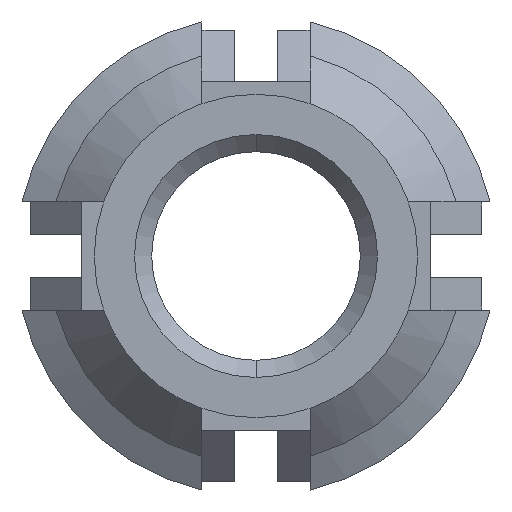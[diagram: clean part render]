
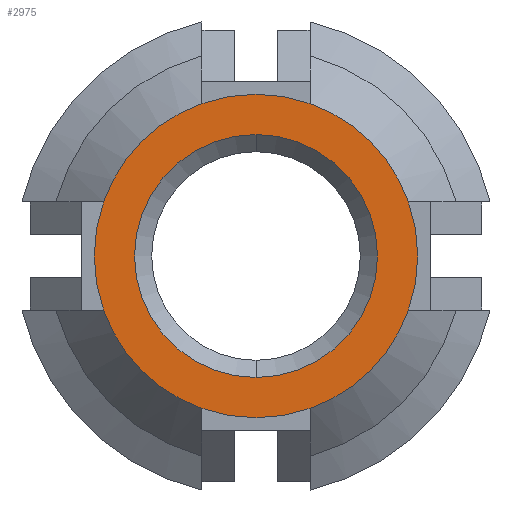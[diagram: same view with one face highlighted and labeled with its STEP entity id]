
A CAD part, front view. The second image highlights one B-rep face of the part: STEP entity #2975.
In plain terms, the highlighted planar face has unit normal (0, -1, 0).
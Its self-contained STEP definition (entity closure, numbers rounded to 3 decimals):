
#22 = DIRECTION ( 'NONE',  ( 0., 0., 1. ) ) ;
#42 = ORIENTED_EDGE ( 'NONE', *, *, #2926, .T. ) ;
#119 = FACE_OUTER_BOUND ( 'NONE', #3771, .T. ) ;
#193 = CIRCLE ( 'NONE', #1137, 3.742 ) ;
#198 = EDGE_CURVE ( 'NONE', #2653, #2318, #1213, .T. ) ;
#227 = EDGE_CURVE ( 'NONE', #1746, #3300, #776, .T. ) ;
#268 = AXIS2_PLACEMENT_3D ( 'NONE', #1455, #2350, #826 ) ;
#293 = CIRCLE ( 'NONE', #3350, 3.742 ) ;
#295 = CARTESIAN_POINT ( 'NONE',  ( 3.527, -7.874, -1.25 ) ) ;
#410 = CIRCLE ( 'NONE', #467, 3.742 ) ;
#428 = DIRECTION ( 'NONE',  ( 0., 0., 1. ) ) ;
#450 = CIRCLE ( 'NONE', #2960, 3.742 ) ;
#467 = AXIS2_PLACEMENT_3D ( 'NONE', #2980, #3883, #3893 ) ;
#543 = AXIS2_PLACEMENT_3D ( 'NONE', #738, #3530, #3837 ) ;
#544 = DIRECTION ( 'NONE',  ( 0., -1., 0. ) ) ;
#725 = DIRECTION ( 'NONE',  ( 0., -1., 0. ) ) ;
#738 = CARTESIAN_POINT ( 'NONE',  ( 0., -7.874, 0. ) ) ;
#754 = DIRECTION ( 'NONE',  ( 0., 0., 1. ) ) ;
#764 = CIRCLE ( 'NONE', #543, 2.81 ) ;
#776 = CIRCLE ( 'NONE', #3344, 3.742 ) ;
#784 = VERTEX_POINT ( 'NONE', #2235 ) ;
#826 = DIRECTION ( 'NONE',  ( 0., 0., 1. ) ) ;
#828 = DIRECTION ( 'NONE',  ( 0., -1., 0. ) ) ;
#832 = EDGE_CURVE ( 'NONE', #1110, #784, #3712, .T. ) ;
#884 = CARTESIAN_POINT ( 'NONE',  ( -1.25, -7.874, 3.527 ) ) ;
#889 = ORIENTED_EDGE ( 'NONE', *, *, #3035, .T. ) ;
#1049 = CIRCLE ( 'NONE', #3703, 2.81 ) ;
#1110 = VERTEX_POINT ( 'NONE', #884 ) ;
#1127 = CARTESIAN_POINT ( 'NONE',  ( -3.527, -7.874, -1.25 ) ) ;
#1137 = AXIS2_PLACEMENT_3D ( 'NONE', #3110, #1565, #22 ) ;
#1194 = EDGE_CURVE ( 'NONE', #2318, #1746, #1658, .T. ) ;
#1213 = CIRCLE ( 'NONE', #2307, 3.742 ) ;
#1216 = EDGE_CURVE ( 'NONE', #2905, #2004, #764, .T. ) ;
#1378 = CARTESIAN_POINT ( 'NONE',  ( 0., -7.874, 2.81 ) ) ;
#1432 = CARTESIAN_POINT ( 'NONE',  ( 0., -7.874, 0. ) ) ;
#1442 = DIRECTION ( 'NONE',  ( 0., 0., 1. ) ) ;
#1455 = CARTESIAN_POINT ( 'NONE',  ( 0., -7.874, 0. ) ) ;
#1565 = DIRECTION ( 'NONE',  ( 0., -1., 0. ) ) ;
#1658 = CIRCLE ( 'NONE', #2864, 3.742 ) ;
#1659 = DIRECTION ( 'NONE',  ( 0., 0., -1. ) ) ;
#1731 = DIRECTION ( 'NONE',  ( 0., -1., 0. ) ) ;
#1746 = VERTEX_POINT ( 'NONE', #295 ) ;
#1954 = ORIENTED_EDGE ( 'NONE', *, *, #2713, .T. ) ;
#2004 = VERTEX_POINT ( 'NONE', #1378 ) ;
#2041 = ORIENTED_EDGE ( 'NONE', *, *, #198, .T. ) ;
#2047 = VERTEX_POINT ( 'NONE', #1127 ) ;
#2168 = CARTESIAN_POINT ( 'NONE',  ( -1.25, -7.874, -3.527 ) ) ;
#2191 = DIRECTION ( 'NONE',  ( 1., 0., 0. ) ) ;
#2235 = CARTESIAN_POINT ( 'NONE',  ( -3.527, -7.874, 1.25 ) ) ;
#2265 = CARTESIAN_POINT ( 'NONE',  ( 0., -7.874, 0. ) ) ;
#2276 = DIRECTION ( 'NONE',  ( 0., 1., 0. ) ) ;
#2307 = AXIS2_PLACEMENT_3D ( 'NONE', #2395, #544, #3015 ) ;
#2318 = VERTEX_POINT ( 'NONE', #3056 ) ;
#2348 = EDGE_LOOP ( 'NONE', ( #2770, #1954 ) ) ;
#2350 = DIRECTION ( 'NONE',  ( 0., 1., 0. ) ) ;
#2395 = CARTESIAN_POINT ( 'NONE',  ( 0., -7.874, 0. ) ) ;
#2428 = ORIENTED_EDGE ( 'NONE', *, *, #1194, .T. ) ;
#2552 = AXIS2_PLACEMENT_3D ( 'NONE', #3226, #3523, #3214 ) ;
#2642 = FACE_BOUND ( 'NONE', #2348, .T. ) ;
#2653 = VERTEX_POINT ( 'NONE', #2168 ) ;
#2713 = EDGE_CURVE ( 'NONE', #2004, #2905, #1049, .T. ) ;
#2770 = ORIENTED_EDGE ( 'NONE', *, *, #1216, .T. ) ;
#2864 = AXIS2_PLACEMENT_3D ( 'NONE', #3120, #725, #754 ) ;
#2889 = ORIENTED_EDGE ( 'NONE', *, *, #3884, .T. ) ;
#2905 = VERTEX_POINT ( 'NONE', #3280 ) ;
#2926 = EDGE_CURVE ( 'NONE', #3300, #3949, #450, .T. ) ;
#2960 = AXIS2_PLACEMENT_3D ( 'NONE', #3560, #1731, #1442 ) ;
#2975 = ADVANCED_FACE ( 'NONE', ( #2642, #119 ), #3291, .F. ) ;
#2980 = CARTESIAN_POINT ( 'NONE',  ( 0., -7.874, 0. ) ) ;
#2995 = CARTESIAN_POINT ( 'NONE',  ( 3.527, -7.874, 1.25 ) ) ;
#3015 = DIRECTION ( 'NONE',  ( -1., 0., 0. ) ) ;
#3035 = EDGE_CURVE ( 'NONE', #2047, #2653, #410, .T. ) ;
#3056 = CARTESIAN_POINT ( 'NONE',  ( 1.25, -7.874, -3.527 ) ) ;
#3110 = CARTESIAN_POINT ( 'NONE',  ( 0., -7.874, 0. ) ) ;
#3120 = CARTESIAN_POINT ( 'NONE',  ( 0., -7.874, 0. ) ) ;
#3214 = DIRECTION ( 'NONE',  ( 0., 0., 1. ) ) ;
#3226 = CARTESIAN_POINT ( 'NONE',  ( 0., -7.874, 0. ) ) ;
#3280 = CARTESIAN_POINT ( 'NONE',  ( 0., -7.874, -2.81 ) ) ;
#3283 = ORIENTED_EDGE ( 'NONE', *, *, #3943, .T. ) ;
#3291 = PLANE ( 'NONE',  #268 ) ;
#3300 = VERTEX_POINT ( 'NONE', #2995 ) ;
#3304 = ORIENTED_EDGE ( 'NONE', *, *, #227, .T. ) ;
#3344 = AXIS2_PLACEMENT_3D ( 'NONE', #3478, #3745, #1659 ) ;
#3350 = AXIS2_PLACEMENT_3D ( 'NONE', #1432, #828, #2191 ) ;
#3351 = ORIENTED_EDGE ( 'NONE', *, *, #832, .T. ) ;
#3431 = CARTESIAN_POINT ( 'NONE',  ( 1.25, -7.874, 3.527 ) ) ;
#3478 = CARTESIAN_POINT ( 'NONE',  ( 0., -7.874, 0. ) ) ;
#3523 = DIRECTION ( 'NONE',  ( 0., -1., 0. ) ) ;
#3530 = DIRECTION ( 'NONE',  ( 0., 1., 0. ) ) ;
#3560 = CARTESIAN_POINT ( 'NONE',  ( 0., -7.874, 0. ) ) ;
#3703 = AXIS2_PLACEMENT_3D ( 'NONE', #2265, #2276, #428 ) ;
#3712 = CIRCLE ( 'NONE', #2552, 3.742 ) ;
#3745 = DIRECTION ( 'NONE',  ( 0., -1., 0. ) ) ;
#3771 = EDGE_LOOP ( 'NONE', ( #3283, #889, #2041, #2428, #3304, #42, #2889, #3351 ) ) ;
#3837 = DIRECTION ( 'NONE',  ( 0., 0., 1. ) ) ;
#3883 = DIRECTION ( 'NONE',  ( 0., -1., 0. ) ) ;
#3884 = EDGE_CURVE ( 'NONE', #3949, #1110, #293, .T. ) ;
#3893 = DIRECTION ( 'NONE',  ( 0., 0., 1. ) ) ;
#3943 = EDGE_CURVE ( 'NONE', #784, #2047, #193, .T. ) ;
#3949 = VERTEX_POINT ( 'NONE', #3431 ) ;
